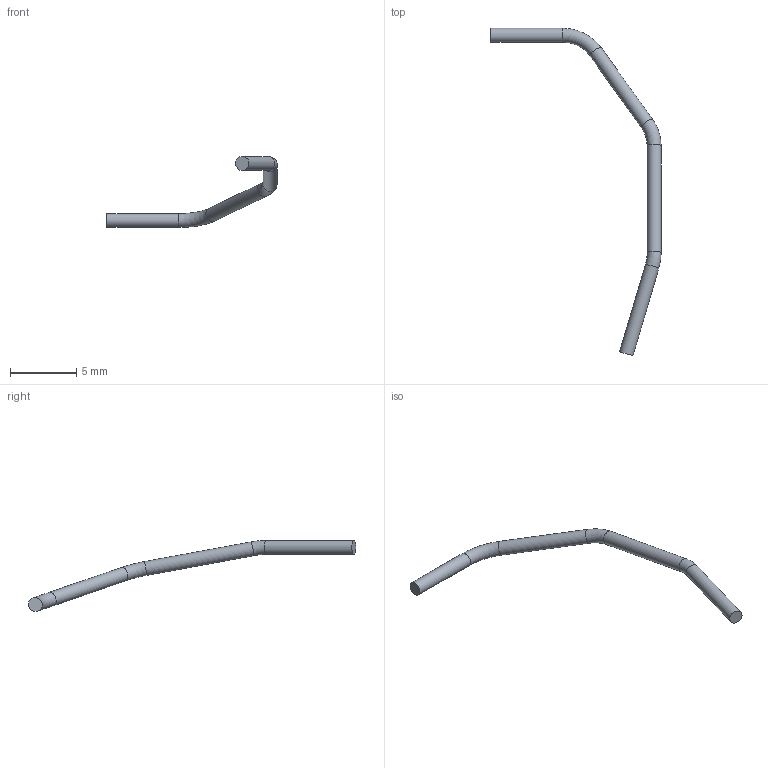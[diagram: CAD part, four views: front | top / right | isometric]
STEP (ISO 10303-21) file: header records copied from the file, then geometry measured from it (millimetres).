
FILE_DESCRIPTION(('Open CASCADE Model'),'2;1');
FILE_NAME('Open CASCADE Shape Model','2026-09-15T14:44:47',('Author'),( 'Open CASCADE'),'Open CASCADE STEP processor 7.7','Open CASCADE 7.7' ,'Unknown');
FILE_SCHEMA(('AUTOMOTIVE_DESIGN { 1 0 10303 214 1 1 1 1 }'));
Length unit declared in the file: millimetre
Products named in the file (1): COMPOUND
Bounding box: 12.82 x 24.67 x 5.35 mm (x, y, z)
Volume: 28.7 mm3; surface area: 111.2 mm2
Topology: 1 solids, 1 shells, 9 faces, 15 edges, 8 vertices
Faces by surface type: cylinder 4, torus 3, plane 2
Full cylindrical faces by diameter (mm): 1.05 x4
Entity records: 404 total; most frequent: CARTESIAN_POINT 76, DIRECTION 63, ORIENTED_EDGE 30, PCURVE 30, DEFINITIONAL_REPRESENTATION 30, AXIS2_PLACEMENT_3D 21, LINE 19, VECTOR 19
